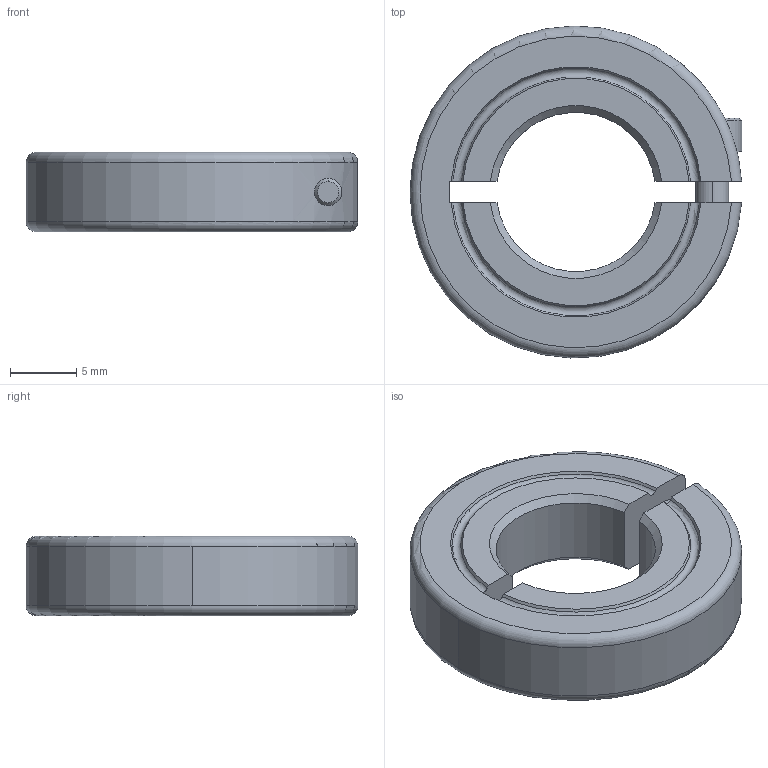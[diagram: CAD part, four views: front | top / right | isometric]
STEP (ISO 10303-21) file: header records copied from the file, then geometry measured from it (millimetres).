
FILE_DESCRIPTION (( 'STEP AP214' ), '1' );
FILE_NAME ('Ruland_ENCL25-12MM-A.step', '2019-03-27T19:30:47', ( '' ), ( '' ), 'SwSTEP 2.0', 'SolidWorks 2018', '' );
FILE_SCHEMA (( 'AUTOMOTIVE_DESIGN' ));
Length unit declared in the file: inch
Products named in the file (3): ENCLxx-xx-x_ENCL25-12MM-A; CAP SCREWS_CFM2.5_8; Ruland_ENCL25-12MM-A
Assembly tree (2 placements, depth 2):
  Ruland_ENCL25-12MM-A
    ENCLxx-xx-x_ENCL25-12MM-A
    CAP SCREWS_CFM2.5_8
Bounding box: 25 x 24.99 x 6 mm (x, y, z)
Volume: 2101.2 mm3; surface area: 1681.1 mm2
Topology: 2 solids, 2 shells, 54 faces, 138 edges, 90 vertices
Faces by surface type: plane 20, cylinder 16, cone 12, torus 6
Entity records: 1882 total; most frequent: CARTESIAN_POINT 444, DIRECTION 280, ORIENTED_EDGE 276, EDGE_CURVE 138, AXIS2_PLACEMENT_3D 108, VERTEX_POINT 90, VECTOR 64, LINE 64
